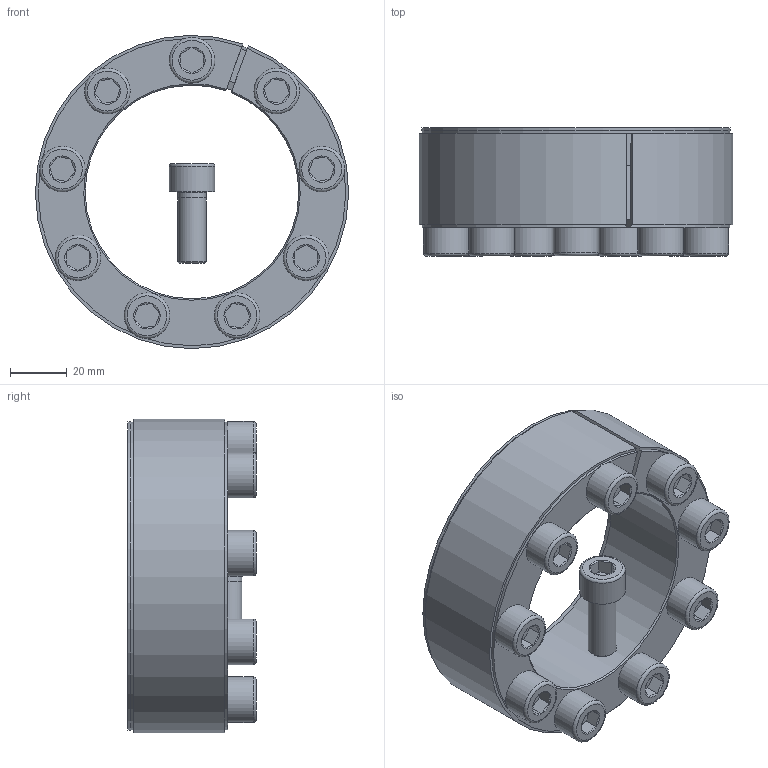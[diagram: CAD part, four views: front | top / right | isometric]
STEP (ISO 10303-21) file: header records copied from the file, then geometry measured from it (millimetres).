
FILE_DESCRIPTION( ( 'Unknown' ), '1' );
FILE_NAME( 'C:/Dokumente und Einstellungen/Sven/Desktop/homepage/cad - homepage/KBS52/KBS 52 - 75 x 110.stp', 'Unknown', ( 'Unknown' ), ( 'Unknown' ), 'XStep 1.0', 'Unknown', ' ' );
FILE_SCHEMA( ( 'automotive_design' ) );
Length unit declared in the file: millimetre
Products named in the file (3): Assem1; KBS 52 - 75 x 110; ISO EN DIN 4762 M10x25
Bounding box: 110 x 45 x 109.99 mm (x, y, z)
Volume: 339730.7 mm3; surface area: 96823.2 mm2
Topology: 12 solids, 12 shells, 308 faces, 606 edges, 360 vertices
Faces by surface type: plane 146, cone 76, cylinder 66, torus 20
Full cylindrical faces by diameter (mm): 9 x10, 10 x38, 16 x10, 108.175 x2
Entity records: 1789 total; most frequent: CARTESIAN_POINT 289, DIRECTION 271, ORIENTED_EDGE 200, AXIS2_PLACEMENT_3D 114, EDGE_CURVE 100, EDGE_LOOP 96, VERTEX_POINT 72, FACE_OUTER_BOUND 70
